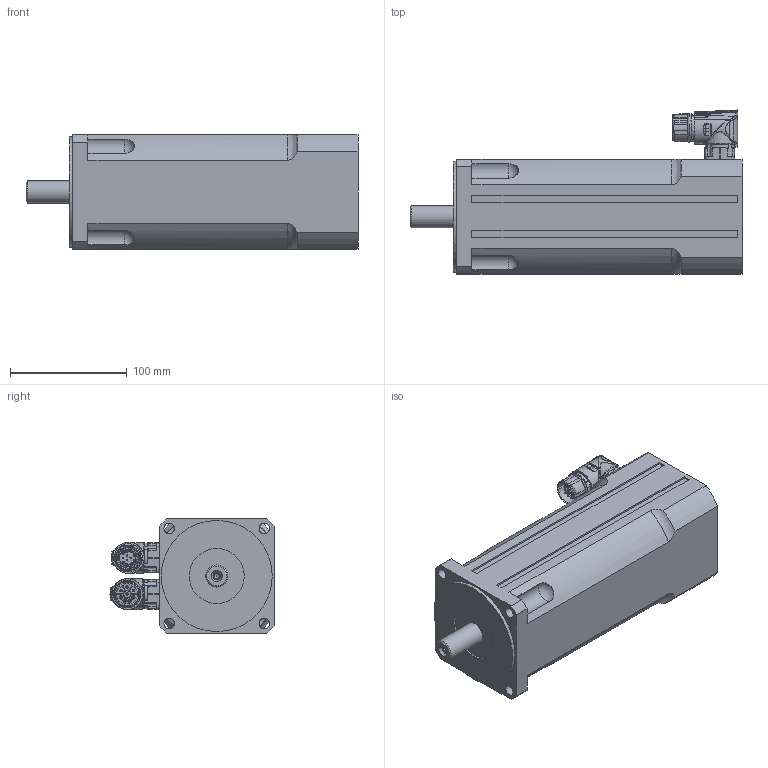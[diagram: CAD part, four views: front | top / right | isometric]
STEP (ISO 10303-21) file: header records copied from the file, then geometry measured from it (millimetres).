
FILE_DESCRIPTION(/* description */ (''),/* implementation_level */ '2;1');
FILE_NAME(/* name */ 'MR6348-Ux-Nxx-G01-A0D-MS-P0.stp',/* time_stamp */ '2015-10-02T13:54:53+02:00',/* author */ (''),/* organization */ (''),/* preprocessor_version */ 'ST-DEVELOPER v16.1',/* originating_system */ 'Autodesk Inventor 2016',/* authorisation */ '');
FILE_SCHEMA (('AUTOMOTIVE_DESIGN { 1 0 10303 214 3 1 1 }'));
Length unit declared in the file: millimetre
Products named in the file (8): MR6348_G01_A0D_MS_P0; Basis 2; Basis 11; BED_0201_8-polig, Stift; 124888; 127323; AED_0201_12-polig, Stift; MR6348_G01_A0D_MS
Assembly tree (7 placements, depth 3):
  MR6348_G01_A0D_MS
    MR6348_G01_A0D_MS_P0
    BED_0201_8-polig, Stift
      Basis 2
      Basis 11
    AED_0201_12-polig, Stift
      124888
      127323
Bounding box: 284 x 140.35 x 98 mm (x, y, z)
Volume: 2244632.9 mm3; surface area: 135632.2 mm2
Topology: 5 solids, 5 shells, 1107 faces, 2822 edges, 1782 vertices
Faces by surface type: cylinder 394, plane 298, bspline 256, cone 84, torus 49, sphere 26
Full cylindrical faces by diameter (mm): 1 x16, 1.18 x12, 1.2 x12, 1.3 x4, 2 x4, 2.013 x8, 2.7 x4, 3 x5, 3.1 x4, 3.2 x1, 4.5 x2, 4.917 x1, 5.5 x2, 5.8 x1, 5.9 x2, 6.4 x1, 6.8 x1, 9 x4, 15.2 x1, 17.4 x1, 17.955 x1, 19 x1, 19.8 x2, 19.9 x1, 20 x3, 20.8 x1, 21.15 x4, 21.6 x1, 21.8 x2, 47 x1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
Entity records: 42229 total; most frequent: CARTESIAN_POINT 16248, ORIENTED_EDGE 5154, DIRECTION 4904, EDGE_CURVE 2577, AXIS2_PLACEMENT_3D 2024, VERTEX_POINT 1723, EDGE_LOOP 1374, FACE_OUTER_BOUND 1107
